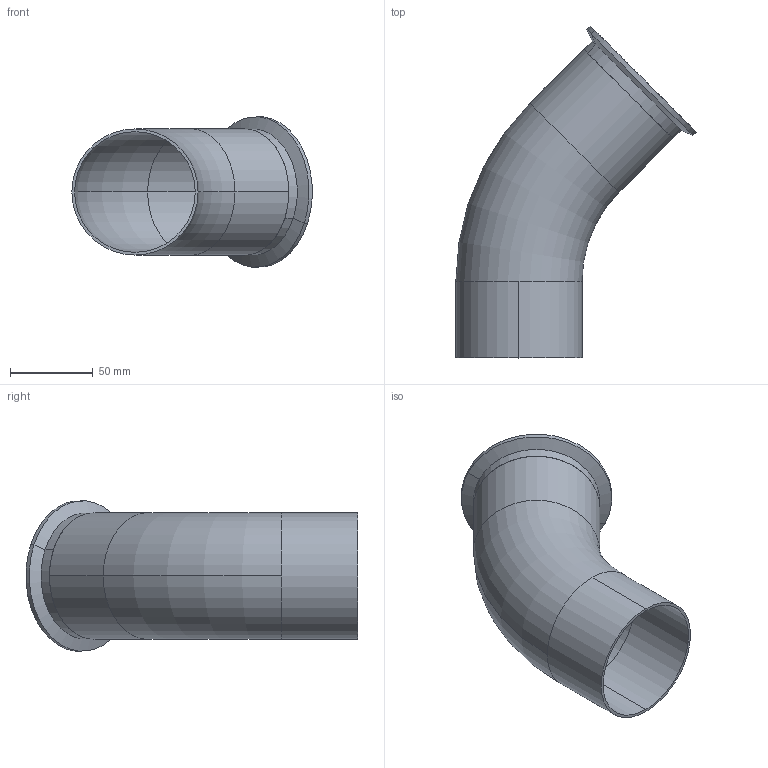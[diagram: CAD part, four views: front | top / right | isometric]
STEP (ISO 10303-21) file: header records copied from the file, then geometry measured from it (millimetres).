
FILE_DESCRIPTION (( 'STEP AP203' ), '1' );
FILE_NAME ('E2KC3.0.STEP', '2018-04-30T15:42:42', ( 'vneprd' ), ( 'Microsoft' ), 'SwSTEP 2.0', 'SolidWorks 2014', '' );
FILE_SCHEMA (( 'CONFIG_CONTROL_DESIGN' ));
Length unit declared in the file: inch
Products named in the file (1): E2KC3.0
Bounding box: 145.15 x 200.42 x 90.64 mm (x, y, z)
Volume: 82593.4 mm3; surface area: 96389.7 mm2
Topology: 2 solids, 2 shells, 31 faces, 66 edges, 40 vertices
Faces by surface type: cylinder 14, torus 10, plane 5, cone 2
Entity records: 939 total; most frequent: DIRECTION 180, CARTESIAN_POINT 138, ORIENTED_EDGE 132, AXIS2_PLACEMENT_3D 82, EDGE_CURVE 66, CIRCLE 50, VERTEX_POINT 40, EDGE_LOOP 36
